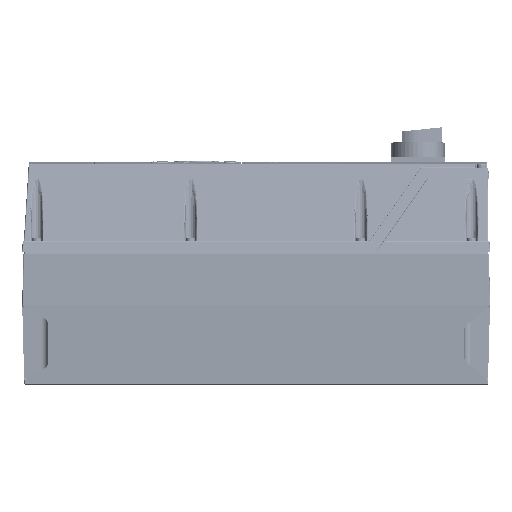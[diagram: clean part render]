
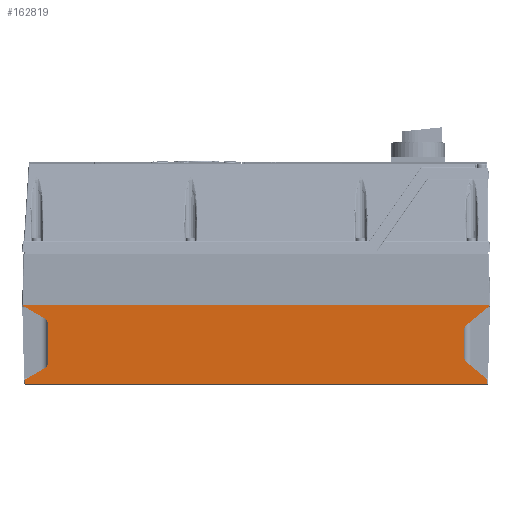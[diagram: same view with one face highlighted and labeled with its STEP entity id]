
A CAD part, left-side view. The second image highlights one B-rep face of the part: STEP entity #162819.
In plain terms, the highlighted planar face has unit normal (-1, 0, -0.026).
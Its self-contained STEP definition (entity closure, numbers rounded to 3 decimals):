
#11500=CARTESIAN_POINT('',(-120.983,-209.245,
10.616));
#11752=CARTESIAN_POINT('',(-119.673,-188.786,
-39.426));
#11753=CARTESIAN_POINT('',(-119.68,-188.488,
-39.176));
#11754=CARTESIAN_POINT('',(-119.694,-187.982,
-38.635));
#11755=CARTESIAN_POINT('',(-119.718,-187.435,
-37.724));
#11756=CARTESIAN_POINT('',(-119.744,-187.089,
-36.72));
#11757=CARTESIAN_POINT('',(-119.763,-187.,-35.984));
#11758=CARTESIAN_POINT('',(-119.773,-187.,-35.595));
#11904=CARTESIAN_POINT('',(-119.267,-207.267,
-54.933));
#12111=CARTESIAN_POINT('',(-120.434,-187.,-10.381));
#12112=CARTESIAN_POINT('',(-120.444,-187.,-9.992));
#12113=CARTESIAN_POINT('',(-120.463,-187.089,
-9.257));
#12114=CARTESIAN_POINT('',(-120.489,-187.435,
-8.252));
#12115=CARTESIAN_POINT('',(-120.513,-187.982,
-7.341));
#12116=CARTESIAN_POINT('',(-120.527,-188.488,
-6.8));
#12117=CARTESIAN_POINT('',(-120.534,-188.786,
-6.551));
#12119=DIRECTION('',(-0.013,-0.866,0.5));
#12120=VECTOR('',#12119,20.51);
#12121=CARTESIAN_POINT('',(-119.26,207.261,
-55.185));
#12122=LINE('',#12121,#12120);
#12123=DIRECTION('',(-0.026,0.,1.));
#12124=VECTOR('',#12123,35.698);
#12125=CARTESIAN_POINT('',(-119.642,187.,-40.601));
#12126=LINE('',#12125,#12124);
#12127=DIRECTION('',(-0.013,0.866,0.5));
#12128=VECTOR('',#12127,22.758);
#12129=CARTESIAN_POINT('',(-120.69,189.5,-0.586));
#12130=LINE('',#12129,#12128);
#12131=CARTESIAN_POINT('',(-121.,209.,11.25));
#12132=CARTESIAN_POINT('',(-121.,209.012,11.25));
#12133=CARTESIAN_POINT('',(-121.,209.029,
11.242));
#12134=CARTESIAN_POINT('',(-120.999,209.057,
11.217));
#12135=CARTESIAN_POINT('',(-120.998,209.084,
11.175));
#12136=CARTESIAN_POINT('',(-120.997,209.11,
11.119));
#12137=CARTESIAN_POINT('',(-120.994,209.141,
11.038));
#12138=CARTESIAN_POINT('',(-120.992,209.174,
10.93));
#12139=CARTESIAN_POINT('',(-120.989,209.196,
10.838));
#12140=CARTESIAN_POINT('',(-120.988,209.207,
10.792));
#12142=CARTESIAN_POINT('',(-120.983,-209.245,
10.616));
#12143=CARTESIAN_POINT('',(-120.985,-209.232,
10.679));
#12144=CARTESIAN_POINT('',(-120.987,-209.213,
10.771));
#12145=CARTESIAN_POINT('',(-120.991,-209.183,
10.891));
#12146=CARTESIAN_POINT('',(-120.993,-209.159,
10.978));
#12147=CARTESIAN_POINT('',(-120.995,-209.132,
11.062));
#12148=CARTESIAN_POINT('',(-120.997,-209.107,
11.127));
#12149=CARTESIAN_POINT('',(-120.998,-209.083,
11.176));
#12150=CARTESIAN_POINT('',(-120.999,-209.062,
11.209));
#12151=CARTESIAN_POINT('',(-121.,-209.037,
11.237));
#12152=CARTESIAN_POINT('',(-121.,-209.016,11.25));
#12153=CARTESIAN_POINT('',(-121.,-209.,11.25));
#12155=DIRECTION('',(0.017,0.766,-0.643));
#12156=VECTOR('',#12155,26.711);
#12157=CARTESIAN_POINT('',(-120.983,-209.245,
10.616));
#12158=LINE('',#12157,#12156);
#12159=DIRECTION('',(0.026,0.,-1.));
#12160=VECTOR('',#12159,25.223);
#12161=CARTESIAN_POINT('',(-120.434,-187.,-10.381));
#12162=LINE('',#12161,#12160);
#12163=DIRECTION('',(0.017,-0.766,-0.643));
#12164=VECTOR('',#12163,24.129);
#12165=CARTESIAN_POINT('',(-119.673,-188.786,
-39.426));
#12166=LINE('',#12165,#12164);
#12167=DIRECTION('',(0.026,0.026,-0.999));
#12168=VECTOR('',#12167,4.096);
#12169=CARTESIAN_POINT('',(-119.267,-207.267,
-54.933));
#12170=LINE('',#12169,#12168);
#12171=DIRECTION('',(0.,-1.,0.));
#12172=VECTOR('',#12171,414.32);
#12173=CARTESIAN_POINT('',(-119.16,207.16,
-59.026));
#12174=LINE('',#12173,#12172);
#12175=DIRECTION('',(-0.026,0.026,0.999));
#12176=VECTOR('',#12175,3.843);
#12177=CARTESIAN_POINT('',(-119.16,207.16,
-59.026));
#12178=LINE('',#12177,#12176);
#12221=CARTESIAN_POINT('',(-119.26,207.261,
-55.185));
#16002=CARTESIAN_POINT('',(-119.642,187.,-40.601));
#16003=CARTESIAN_POINT('',(-119.63,187.,-41.082));
#16004=CARTESIAN_POINT('',(-119.606,187.134,
-41.967));
#16005=CARTESIAN_POINT('',(-119.576,187.625,
-43.127));
#16006=CARTESIAN_POINT('',(-119.55,188.384,
-44.132));
#16007=CARTESIAN_POINT('',(-119.535,189.083,
-44.691));
#16008=CARTESIAN_POINT('',(-119.529,189.5,-44.931));
#16090=CARTESIAN_POINT('',(-120.69,189.5,-0.586));
#16091=CARTESIAN_POINT('',(-120.684,189.083,
-0.826));
#16092=CARTESIAN_POINT('',(-120.669,188.384,
-1.385));
#16093=CARTESIAN_POINT('',(-120.643,187.625,
-2.39));
#16094=CARTESIAN_POINT('',(-120.612,187.134,
-3.55));
#16095=CARTESIAN_POINT('',(-120.589,187.,-4.435));
#16096=CARTESIAN_POINT('',(-120.577,187.,-4.916));
#16356=DIRECTION('',(0.,-1.,0.));
#16357=VECTOR('',#16356,418.);
#16358=CARTESIAN_POINT('',(-121.,209.,11.25));
#16359=LINE('',#16358,#16357);
#129283=CARTESIAN_POINT('',(-121.,209.,11.25));
#129284=VERTEX_POINT('',#129283);
#129285=VERTEX_POINT('',#12140);
#129296=VERTEX_POINT('',#11500);
#129297=VERTEX_POINT('',#12153);
#129336=VERTEX_POINT('',#12221);
#129337=VERTEX_POINT('',#11904);
#129406=CARTESIAN_POINT('',(-119.16,207.16,
-59.026));
#129407=VERTEX_POINT('',#129406);
#129410=CARTESIAN_POINT('',(-119.16,-207.16,
-59.026));
#129411=VERTEX_POINT('',#129410);
#131225=CARTESIAN_POINT('',(-119.642,187.,-40.601));
#131226=CARTESIAN_POINT('',(-120.577,187.,-4.916));
#131227=VERTEX_POINT('',#131225);
#131228=VERTEX_POINT('',#131226);
#131229=CARTESIAN_POINT('',(-120.434,-187.,-10.381));
#131230=CARTESIAN_POINT('',(-119.773,-187.,-35.595));
#131231=VERTEX_POINT('',#131229);
#131232=VERTEX_POINT('',#131230);
#131239=CARTESIAN_POINT('',(-120.69,189.5,-0.586));
#131240=VERTEX_POINT('',#131239);
#131241=CARTESIAN_POINT('',(-120.534,-188.786,
-6.551));
#131242=VERTEX_POINT('',#131241);
#131247=CARTESIAN_POINT('',(-119.529,189.5,-44.931));
#131248=VERTEX_POINT('',#131247);
#131249=CARTESIAN_POINT('',(-119.673,-188.786,
-39.426));
#131250=VERTEX_POINT('',#131249);
#162786=CARTESIAN_POINT('',(-121.,210.,11.25));
#162787=DIRECTION('',(-1.,0.,-0.026));
#162788=DIRECTION('',(0.,-1.,0.));
#162789=AXIS2_PLACEMENT_3D('',#162786,#162787,#162788);
#162790=PLANE('',#162789);
#162792=ORIENTED_EDGE('',*,*,#162791,.T.);
#162794=ORIENTED_EDGE('',*,*,#162793,.F.);
#162796=ORIENTED_EDGE('',*,*,#162795,.T.);
#162798=ORIENTED_EDGE('',*,*,#162797,.F.);
#162800=ORIENTED_EDGE('',*,*,#162799,.T.);
#162802=ORIENTED_EDGE('',*,*,#162801,.F.);
#162804=ORIENTED_EDGE('',*,*,#162803,.T.);
#162805=ORIENTED_EDGE('',*,*,#161541,.F.);
#162806=ORIENTED_EDGE('',*,*,#161563,.T.);
#162807=ORIENTED_EDGE('',*,*,#162780,.F.);
#162808=ORIENTED_EDGE('',*,*,#161988,.T.);
#162809=ORIENTED_EDGE('',*,*,#162013,.F.);
#162810=ORIENTED_EDGE('',*,*,#162325,.T.);
#162812=ORIENTED_EDGE('',*,*,#162811,.T.);
#162814=ORIENTED_EDGE('',*,*,#162813,.F.);
#162816=ORIENTED_EDGE('',*,*,#162815,.T.);
#162817=EDGE_LOOP('',(#162792,#162794,#162796,#162798,#162800,#162802,#162804,
#162805,#162806,#162807,#162808,#162809,#162810,#162812,#162814,#162816));
#162818=FACE_OUTER_BOUND('',#162817,.F.);
#11759=B_SPLINE_CURVE_WITH_KNOTS('',3,(#11752,#11753,#11754,#11755,#11756,
#11757,#11758),.UNSPECIFIED.,.F.,.F.,(4,1,1,1,4),(0.,0.25,0.5,0.75,
1.),.UNSPECIFIED.);
#12118=B_SPLINE_CURVE_WITH_KNOTS('',3,(#12111,#12112,#12113,#12114,#12115,
#12116,#12117),.UNSPECIFIED.,.F.,.F.,(4,1,1,1,4),(0.,0.25,0.5,0.75,
1.),.UNSPECIFIED.);
#12141=B_SPLINE_CURVE_WITH_KNOTS('',3,(#12131,#12132,#12133,#12134,#12135,
#12136,#12137,#12138,#12139,#12140),.UNSPECIFIED.,.F.,.F.,(4,1,1,1,1,1,1,4),(
0.,0.063,0.125,0.25,0.375,0.5,0.75,1.),.UNSPECIFIED.);
#12154=B_SPLINE_CURVE_WITH_KNOTS('',3,(#12142,#12143,#12144,#12145,#12146,
#12147,#12148,#12149,#12150,#12151,#12152,#12153),.UNSPECIFIED.,.F.,.F.,(4,1,1,
1,1,1,1,1,1,4),(0.,0.25,0.375,0.5,0.625,0.75,0.813,0.875,
0.938,1.),.UNSPECIFIED.);
#16009=B_SPLINE_CURVE_WITH_KNOTS('',3,(#16002,#16003,#16004,#16005,#16006,
#16007,#16008),.UNSPECIFIED.,.F.,.F.,(4,1,1,1,4),(0.,0.25,0.5,0.75,
1.),.UNSPECIFIED.);
#16097=B_SPLINE_CURVE_WITH_KNOTS('',3,(#16090,#16091,#16092,#16093,#16094,
#16095,#16096),.UNSPECIFIED.,.F.,.F.,(4,1,1,1,4),(0.,0.25,0.5,0.75,
1.),.UNSPECIFIED.);
#161541=EDGE_CURVE('',#129296,#129297,#12154,.T.);
#161563=EDGE_CURVE('',#129296,#131242,#12158,.T.);
#161988=EDGE_CURVE('',#131231,#131232,#12162,.T.);
#162013=EDGE_CURVE('',#131250,#131232,#11759,.T.);
#162325=EDGE_CURVE('',#131250,#129337,#12166,.T.);
#162780=EDGE_CURVE('',#131231,#131242,#12118,.T.);
#162791=EDGE_CURVE('',#129336,#131248,#12122,.T.);
#162793=EDGE_CURVE('',#131227,#131248,#16009,.T.);
#162795=EDGE_CURVE('',#131227,#131228,#12126,.T.);
#162797=EDGE_CURVE('',#131240,#131228,#16097,.T.);
#162799=EDGE_CURVE('',#131240,#129285,#12130,.T.);
#162801=EDGE_CURVE('',#129284,#129285,#12141,.T.);
#162803=EDGE_CURVE('',#129284,#129297,#16359,.T.);
#162811=EDGE_CURVE('',#129337,#129411,#12170,.T.);
#162813=EDGE_CURVE('',#129407,#129411,#12174,.T.);
#162815=EDGE_CURVE('',#129407,#129336,#12178,.T.);
#162819=ADVANCED_FACE('',(#162818),#162790,.T.);
